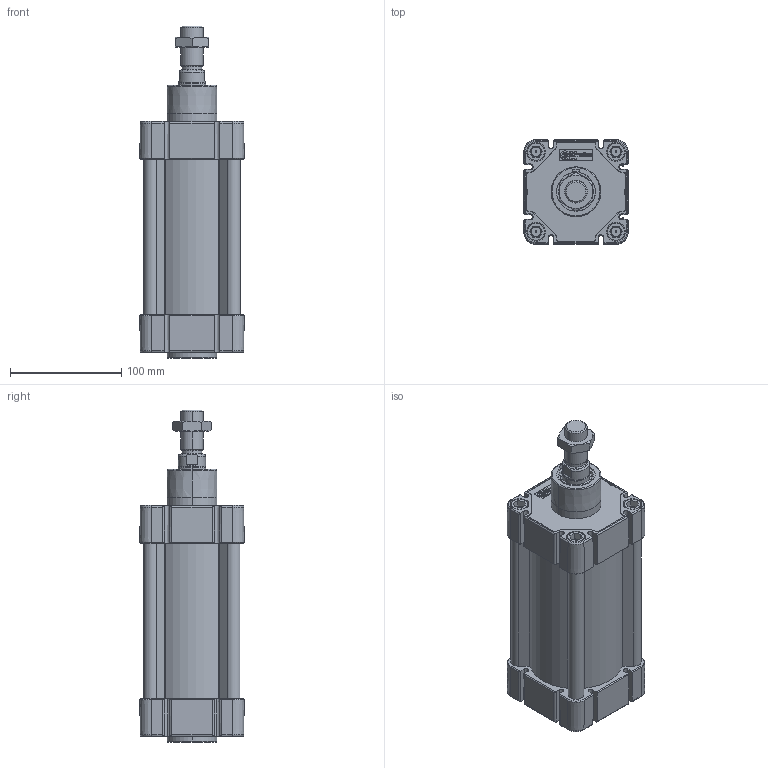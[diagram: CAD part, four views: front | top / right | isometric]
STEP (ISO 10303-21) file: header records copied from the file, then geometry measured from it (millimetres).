
FILE_DESCRIPTION (( 'STEP AP214' ), '1' );
FILE_NAME ('E11M20800080.STEP', '2021-10-27T12:17:46', ( '' ), ( '' ), 'SwSTEP 2.0', 'SolidWorks 2016', '' );
FILE_SCHEMA (( 'AUTOMOTIVE_DESIGN' ));
Length unit declared in the file: millimetre
Products named in the file (7): Pistone Ø80 ISO 15552; TA Ø80 ISO 15552 WEB; TP Ø80 ISO 15552 WEB; E11M20800080; 000.534.7_000.534.0080; 21.753.0; 21.E01.0000_21.E01.0080
Assembly tree (6 placements, depth 2):
  E11M20800080
    TP Ø80 ISO 15552 WEB
    TA Ø80 ISO 15552 WEB
    Pistone Ø80 ISO 15552
    21.E01.0000_21.E01.0080
    000.534.7_000.534.0080
    21.753.0
Bounding box: 93.95 x 93.97 x 299 mm (x, y, z)
Volume: 962297.1 mm3; surface area: 349934.9 mm2
Topology: 17 solids, 18 shells, 2128 faces, 5468 edges, 3473 vertices
Faces by surface type: plane 874, cylinder 689, cone 262, bspline 214, torus 85, sphere 4
Entity records: 91998 total; most frequent: CARTESIAN_POINT 20658, ORIENTED_EDGE 10892, DIRECTION 10080, EDGE_CURVE 5446, AXIS2_PLACEMENT_3D 3595, VERTEX_POINT 3473, LINE 2890, VECTOR 2890
